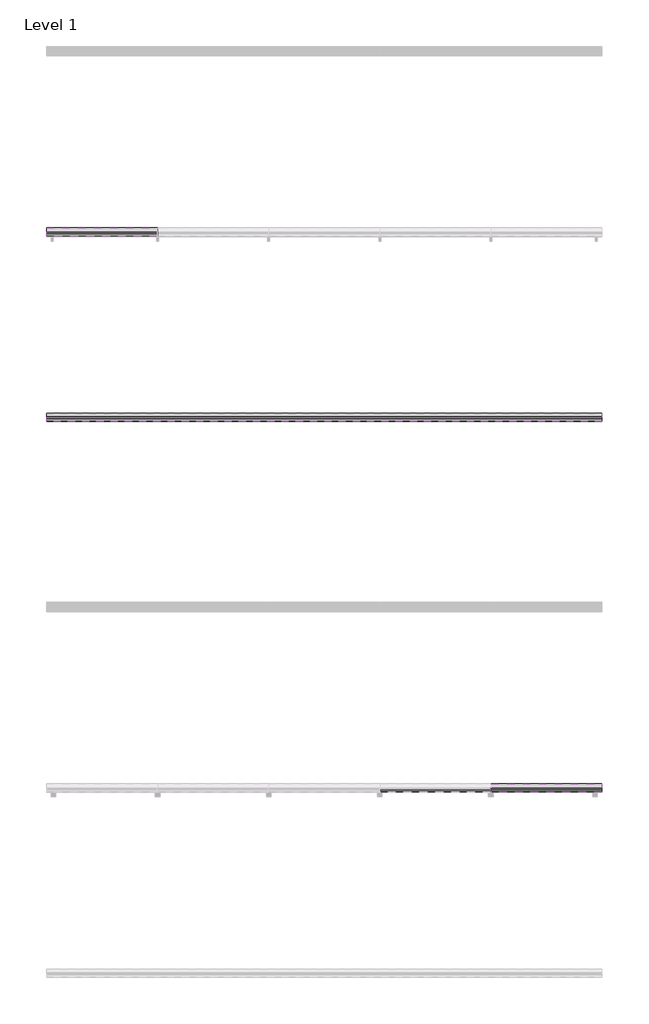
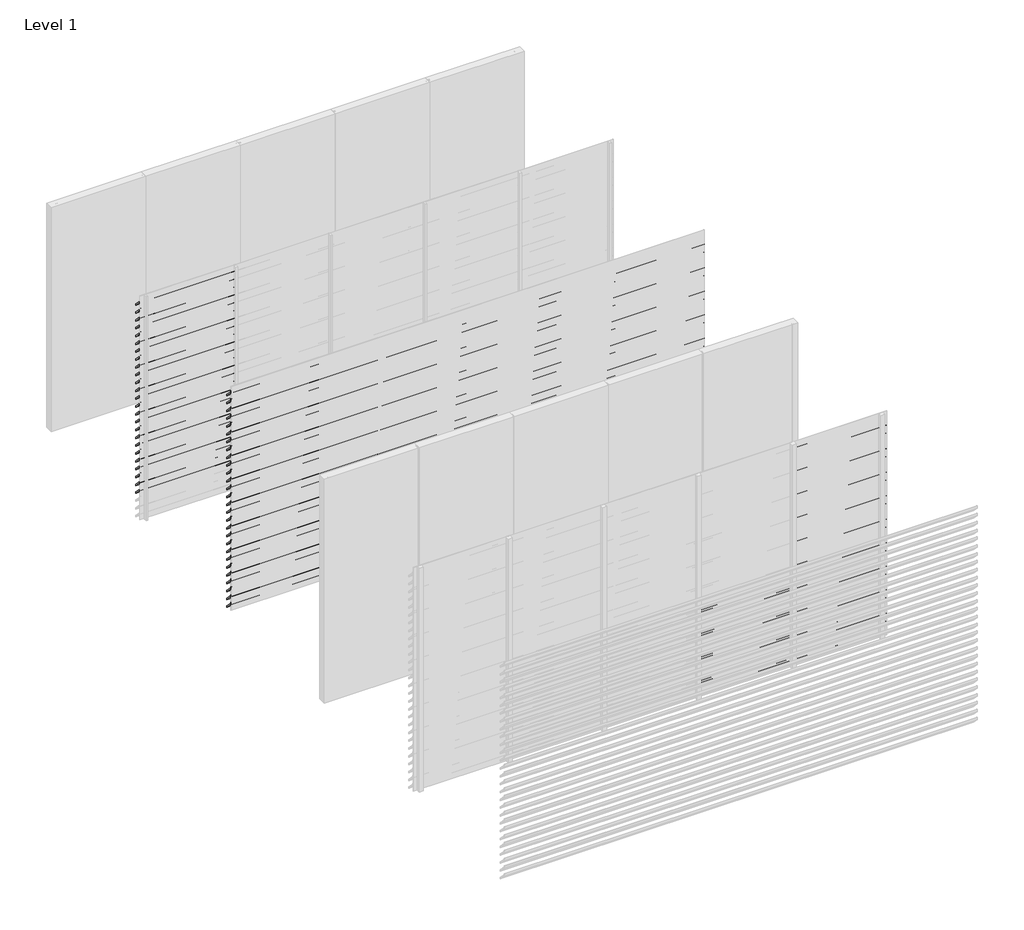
# One storey, part 5 of 8: 92 proxies.
"""IFC4 building model written with IfcOpenShell, lengths in millimetres."""

from ifc_helpers import new_model, si_unit, frame, origin, place, context, project, spatial, polyline, outline, extrude, element, save

model = new_model("IFC4")

# Units and contexts
model_context = context("Model", 3, world=origin())
ifc_project = project(units=[si_unit("LENGTHUNIT", "METRE", prefix="MILLI")], contexts=[model_context])

# Site, building, storey
site = spatial("IfcSite", under=ifc_project)
building = spatial("IfcBuilding", under=site)
storey = spatial("IfcBuildingStorey", under=building, Name="Level 1", Elevation=0.0)

# Proxies
placement = place(None, origin())
element("IfcBuildingElementProxy", 1, Name="Wall Sweeps", at=placement, inside=storey, context=model_context, shape_type="SweptSolid", body=[
    extrude(outline(polyline([(-5995.0, 2940.0), (-5995.0, 2927.0), (-5907.0, 2839.0), (-5907.0, 2818.0), (-5997.0, 2908.0), (-5997.0, 2940.0), (-5995.0, 2940.0)])), frame((0.0, 0.0, 0.0), z_axis=(1.0, 0.0, 0.0), x_axis=(0.0, 1.0, 0.0)), (0.0, 0.0, 1.0), 1200.0),
])
element("IfcBuildingElementProxy", 2, Name="Wall Sweeps", at=placement, inside=storey, context=model_context, shape_type="SweptSolid", body=[
    extrude(outline(polyline([(-5995.0, 2835.0), (-5995.0, 2822.0), (-5907.0, 2734.0), (-5907.0, 2713.0), (-5997.0, 2803.0), (-5997.0, 2835.0), (-5995.0, 2835.0)])), frame((0.0, 0.0, 0.0), z_axis=(1.0, 0.0, 0.0), x_axis=(0.0, 1.0, 0.0)), (0.0, 0.0, 1.0), 1200.0),
])
element("IfcBuildingElementProxy", 3, Name="Wall Sweeps", at=placement, inside=storey, context=model_context, shape_type="SweptSolid", body=[
    extrude(outline(polyline([(-5995.0, 2730.0), (-5995.0, 2717.0), (-5907.0, 2629.0), (-5907.0, 2608.0), (-5997.0, 2698.0), (-5997.0, 2730.0), (-5995.0, 2730.0)])), frame((0.0, 0.0, 0.0), z_axis=(1.0, 0.0, 0.0), x_axis=(0.0, 1.0, 0.0)), (0.0, 0.0, 1.0), 1200.0),
])
element("IfcBuildingElementProxy", 4, Name="Wall Sweeps", at=placement, inside=storey, context=model_context, shape_type="SweptSolid", body=[
    extrude(outline(polyline([(-5995.0, 2625.0), (-5995.0, 2612.0), (-5907.0, 2524.0), (-5907.0, 2503.0), (-5997.0, 2593.0), (-5997.0, 2625.0), (-5995.0, 2625.0)])), frame((0.0, 0.0, 0.0), z_axis=(1.0, 0.0, 0.0), x_axis=(0.0, 1.0, 0.0)), (0.0, 0.0, 1.0), 1200.0),
])
element("IfcBuildingElementProxy", 5, Name="Wall Sweeps", at=placement, inside=storey, context=model_context, shape_type="SweptSolid", body=[
    extrude(outline(polyline([(-5995.0, 2520.0), (-5995.0, 2507.0), (-5907.0, 2419.0), (-5907.0, 2398.0), (-5997.0, 2488.0), (-5997.0, 2520.0), (-5995.0, 2520.0)])), frame((0.0, 0.0, 0.0), z_axis=(1.0, 0.0, 0.0), x_axis=(0.0, 1.0, 0.0)), (0.0, 0.0, 1.0), 1200.0),
])
element("IfcBuildingElementProxy", 6, Name="Wall Sweeps", at=placement, inside=storey, context=model_context, shape_type="SweptSolid", body=[
    extrude(outline(polyline([(-5995.0, 2415.0), (-5995.0, 2402.0), (-5907.0, 2314.0), (-5907.0, 2293.0), (-5997.0, 2383.0), (-5997.0, 2415.0), (-5995.0, 2415.0)])), frame((0.0, 0.0, 0.0), z_axis=(1.0, 0.0, 0.0), x_axis=(0.0, 1.0, 0.0)), (0.0, 0.0, 1.0), 1200.0),
])
element("IfcBuildingElementProxy", 7, Name="Wall Sweeps", at=placement, inside=storey, context=model_context, shape_type="SweptSolid", body=[
    extrude(outline(polyline([(-5995.0, 2310.0), (-5995.0, 2297.0), (-5907.0, 2209.0), (-5907.0, 2188.0), (-5997.0, 2278.0), (-5997.0, 2310.0), (-5995.0, 2310.0)])), frame((0.0, 0.0, 0.0), z_axis=(1.0, 0.0, 0.0), x_axis=(0.0, 1.0, 0.0)), (0.0, 0.0, 1.0), 1200.0),
])
element("IfcBuildingElementProxy", 8, Name="Wall Sweeps", at=placement, inside=storey, context=model_context, shape_type="SweptSolid", body=[
    extrude(outline(polyline([(-5995.0, 2205.0), (-5995.0, 2192.0), (-5907.0, 2104.0), (-5907.0, 2083.0), (-5997.0, 2173.0), (-5997.0, 2205.0), (-5995.0, 2205.0)])), frame((0.0, 0.0, 0.0), z_axis=(1.0, 0.0, 0.0), x_axis=(0.0, 1.0, 0.0)), (0.0, 0.0, 1.0), 1200.0),
])
element("IfcBuildingElementProxy", 9, Name="Wall Sweeps", at=placement, inside=storey, context=model_context, shape_type="SweptSolid", body=[
    extrude(outline(polyline([(-5995.0, 2100.0), (-5995.0, 2087.0), (-5907.0, 1999.0), (-5907.0, 1978.0), (-5997.0, 2068.0), (-5997.0, 2100.0), (-5995.0, 2100.0)])), frame((0.0, 0.0, 0.0), z_axis=(1.0, 0.0, 0.0), x_axis=(0.0, 1.0, 0.0)), (0.0, 0.0, 1.0), 1200.0),
])
element("IfcBuildingElementProxy", 10, Name="Wall Sweeps", at=placement, inside=storey, context=model_context, shape_type="SweptSolid", body=[
    extrude(outline(polyline([(-5995.0, 1995.0), (-5995.0, 1982.0), (-5907.0, 1894.0), (-5907.0, 1873.0), (-5997.0, 1963.0), (-5997.0, 1995.0), (-5995.0, 1995.0)])), frame((0.0, 0.0, 0.0), z_axis=(1.0, 0.0, 0.0), x_axis=(0.0, 1.0, 0.0)), (0.0, 0.0, 1.0), 1200.0),
])
element("IfcBuildingElementProxy", 11, Name="Wall Sweeps", at=placement, inside=storey, context=model_context, shape_type="SweptSolid", body=[
    extrude(outline(polyline([(-5995.0, 1890.0), (-5995.0, 1877.0), (-5907.0, 1789.0), (-5907.0, 1768.0), (-5997.0, 1858.0), (-5997.0, 1890.0), (-5995.0, 1890.0)])), frame((0.0, 0.0, 0.0), z_axis=(1.0, 0.0, 0.0), x_axis=(0.0, 1.0, 0.0)), (0.0, 0.0, 1.0), 1200.0),
])
element("IfcBuildingElementProxy", 12, Name="Wall Sweeps", at=placement, inside=storey, context=model_context, shape_type="SweptSolid", body=[
    extrude(outline(polyline([(-5995.0, 1785.0), (-5995.0, 1772.0), (-5907.0, 1684.0), (-5907.0, 1663.0), (-5997.0, 1753.0), (-5997.0, 1785.0), (-5995.0, 1785.0)])), frame((0.0, 0.0, 0.0), z_axis=(1.0, 0.0, 0.0), x_axis=(0.0, 1.0, 0.0)), (0.0, 0.0, 1.0), 1200.0),
])
element("IfcBuildingElementProxy", 13, Name="Wall Sweeps", at=placement, inside=storey, context=model_context, shape_type="SweptSolid", body=[
    extrude(outline(polyline([(-5995.0, 1680.0), (-5995.0, 1667.0), (-5907.0, 1579.0), (-5907.0, 1558.0), (-5997.0, 1648.0), (-5997.0, 1680.0), (-5995.0, 1680.0)])), frame((0.0, 0.0, 0.0), z_axis=(1.0, 0.0, 0.0), x_axis=(0.0, 1.0, 0.0)), (0.0, 0.0, 1.0), 1200.0),
])
element("IfcBuildingElementProxy", 14, Name="Wall Sweeps", at=placement, inside=storey, context=model_context, shape_type="SweptSolid", body=[
    extrude(outline(polyline([(-5995.0, 1575.0), (-5995.0, 1562.0), (-5907.0, 1474.0), (-5907.0, 1453.0), (-5997.0, 1543.0), (-5997.0, 1575.0), (-5995.0, 1575.0)])), frame((0.0, 0.0, 0.0), z_axis=(1.0, 0.0, 0.0), x_axis=(0.0, 1.0, 0.0)), (0.0, 0.0, 1.0), 1200.0),
])
element("IfcBuildingElementProxy", 15, Name="Wall Sweeps", at=placement, inside=storey, context=model_context, shape_type="SweptSolid", body=[
    extrude(outline(polyline([(-5995.0, 1470.0), (-5995.0, 1457.0), (-5907.0, 1369.0), (-5907.0, 1348.0), (-5997.0, 1438.0), (-5997.0, 1470.0), (-5995.0, 1470.0)])), frame((0.0, 0.0, 0.0), z_axis=(1.0, 0.0, 0.0), x_axis=(0.0, 1.0, 0.0)), (0.0, 0.0, 1.0), 1200.0),
])
element("IfcBuildingElementProxy", 16, Name="Wall Sweeps", at=placement, inside=storey, context=model_context, shape_type="SweptSolid", body=[
    extrude(outline(polyline([(-5995.0, 1365.0), (-5995.0, 1352.0), (-5907.0, 1264.0), (-5907.0, 1243.0), (-5997.0, 1333.0), (-5997.0, 1365.0), (-5995.0, 1365.0)])), frame((0.0, 0.0, 0.0), z_axis=(1.0, 0.0, 0.0), x_axis=(0.0, 1.0, 0.0)), (0.0, 0.0, 1.0), 1200.0),
])
element("IfcBuildingElementProxy", 17, Name="Wall Sweeps", at=placement, inside=storey, context=model_context, shape_type="SweptSolid", body=[
    extrude(outline(polyline([(-5995.0, 1260.0), (-5995.0, 1247.0), (-5907.0, 1159.0), (-5907.0, 1138.0), (-5997.0, 1228.0), (-5997.0, 1260.0), (-5995.0, 1260.0)])), frame((0.0, 0.0, 0.0), z_axis=(1.0, 0.0, 0.0), x_axis=(0.0, 1.0, 0.0)), (0.0, 0.0, 1.0), 1200.0),
])
element("IfcBuildingElementProxy", 18, Name="Wall Sweeps", at=placement, inside=storey, context=model_context, shape_type="SweptSolid", body=[
    extrude(outline(polyline([(-5995.0, 1155.0), (-5995.0, 1142.0), (-5907.0, 1054.0), (-5907.0, 1033.0), (-5997.0, 1123.0), (-5997.0, 1155.0), (-5995.0, 1155.0)])), frame((0.0, 0.0, 0.0), z_axis=(1.0, 0.0, 0.0), x_axis=(0.0, 1.0, 0.0)), (0.0, 0.0, 1.0), 1200.0),
])
element("IfcBuildingElementProxy", 19, Name="Wall Sweeps", at=placement, inside=storey, context=model_context, shape_type="SweptSolid", body=[
    extrude(outline(polyline([(-5995.0, 1050.0), (-5995.0, 1037.0), (-5907.0, 949.0), (-5907.0, 928.0), (-5997.0, 1018.0), (-5997.0, 1050.0), (-5995.0, 1050.0)])), frame((0.0, 0.0, 0.0), z_axis=(1.0, 0.0, 0.0), x_axis=(0.0, 1.0, 0.0)), (0.0, 0.0, 1.0), 1200.0),
])
element("IfcBuildingElementProxy", 20, Name="Wall Sweeps", at=placement, inside=storey, context=model_context, shape_type="SweptSolid", body=[
    extrude(outline(polyline([(-5995.0, 945.0), (-5995.0, 932.0), (-5907.0, 844.0), (-5907.0, 823.0), (-5997.0, 913.0), (-5997.0, 945.0), (-5995.0, 945.0)])), frame((0.0, 0.0, 0.0), z_axis=(1.0, 0.0, 0.0), x_axis=(0.0, 1.0, 0.0)), (0.0, 0.0, 1.0), 1200.0),
])
element("IfcBuildingElementProxy", 21, Name="Wall Sweeps", at=placement, inside=storey, context=model_context, shape_type="SweptSolid", body=[
    extrude(outline(polyline([(-5995.0, 840.0), (-5995.0, 827.0), (-5907.0, 739.0), (-5907.0, 718.0), (-5997.0, 808.0), (-5997.0, 840.0), (-5995.0, 840.0)])), frame((0.0, 0.0, 0.0), z_axis=(1.0, 0.0, 0.0), x_axis=(0.0, 1.0, 0.0)), (0.0, 0.0, 1.0), 1200.0),
])
element("IfcBuildingElementProxy", 22, Name="Wall Sweeps", at=placement, inside=storey, context=model_context, shape_type="SweptSolid", body=[
    extrude(outline(polyline([(-5995.0, 735.0), (-5995.0, 722.0), (-5907.0, 634.0), (-5907.0, 613.0), (-5997.0, 703.0), (-5997.0, 735.0), (-5995.0, 735.0)])), frame((0.0, 0.0, 0.0), z_axis=(1.0, 0.0, 0.0), x_axis=(0.0, 1.0, 0.0)), (0.0, 0.0, 1.0), 1200.0),
])
element("IfcBuildingElementProxy", 23, Name="Wall Sweeps", at=placement, inside=storey, context=model_context, shape_type="SweptSolid", body=[
    extrude(outline(polyline([(-5995.0, 630.0), (-5995.0, 617.0), (-5907.0, 529.0), (-5907.0, 508.0), (-5997.0, 598.0), (-5997.0, 630.0), (-5995.0, 630.0)])), frame((0.0, 0.0, 0.0), z_axis=(1.0, 0.0, 0.0), x_axis=(0.0, 1.0, 0.0)), (0.0, 0.0, 1.0), 1200.0),
])
element("IfcBuildingElementProxy", 24, Name="Wall Sweeps", at=placement, inside=storey, context=model_context, shape_type="SweptSolid", body=[
    extrude(outline(polyline([(-5995.0, 525.0), (-5995.0, 512.0), (-5907.0, 424.0), (-5907.0, 403.0), (-5997.0, 493.0), (-5997.0, 525.0), (-5995.0, 525.0)])), frame((0.0, 0.0, 0.0), z_axis=(1.0, 0.0, 0.0), x_axis=(0.0, 1.0, 0.0)), (0.0, 0.0, 1.0), 1200.0),
])
element("IfcBuildingElementProxy", 25, Name="Wall Sweeps", at=placement, inside=storey, context=model_context, shape_type="SweptSolid", body=[
    extrude(outline(polyline([(-5995.0, 420.0), (-5995.0, 407.0), (-5907.0, 319.0), (-5907.0, 298.0), (-5997.0, 388.0), (-5997.0, 420.0), (-5995.0, 420.0)])), frame((0.0, 0.0, 0.0), z_axis=(1.0, 0.0, 0.0), x_axis=(0.0, 1.0, 0.0)), (0.0, 0.0, 1.0), 1200.0),
])
element("IfcBuildingElementProxy", 26, Name="Wall Sweeps", at=placement, inside=storey, context=model_context, shape_type="SweptSolid", body=[
    extrude(outline(polyline([(-7995.0, 2940.0), (-7995.0, 2927.0), (-7907.0, 2839.0), (-7907.0, 2818.0), (-7997.0, 2908.0), (-7997.0, 2940.0), (-7995.0, 2940.0)])), frame((0.0, 0.0, 0.0), z_axis=(1.0, 0.0, 0.0), x_axis=(0.0, 1.0, 0.0)), (0.0, 0.0, 1.0), 6000.0),
])
element("IfcBuildingElementProxy", 27, Name="Wall Sweeps", at=placement, inside=storey, context=model_context, shape_type="SweptSolid", body=[
    extrude(outline(polyline([(-7995.0, 2835.0), (-7995.0, 2822.0), (-7907.0, 2734.0), (-7907.0, 2713.0), (-7997.0, 2803.0), (-7997.0, 2835.0), (-7995.0, 2835.0)])), frame((0.0, 0.0, 0.0), z_axis=(1.0, 0.0, 0.0), x_axis=(0.0, 1.0, 0.0)), (0.0, 0.0, 1.0), 6000.0),
])
element("IfcBuildingElementProxy", 28, Name="Wall Sweeps", at=placement, inside=storey, context=model_context, shape_type="SweptSolid", body=[
    extrude(outline(polyline([(-7995.0, 2730.0), (-7995.0, 2717.0), (-7907.0, 2629.0), (-7907.0, 2608.0), (-7997.0, 2698.0), (-7997.0, 2730.0), (-7995.0, 2730.0)])), frame((0.0, 0.0, 0.0), z_axis=(1.0, 0.0, 0.0), x_axis=(0.0, 1.0, 0.0)), (0.0, 0.0, 1.0), 6000.0),
])
element("IfcBuildingElementProxy", 29, Name="Wall Sweeps", at=placement, inside=storey, context=model_context, shape_type="SweptSolid", body=[
    extrude(outline(polyline([(-7995.0, 2625.0), (-7995.0, 2612.0), (-7907.0, 2524.0), (-7907.0, 2503.0), (-7997.0, 2593.0), (-7997.0, 2625.0), (-7995.0, 2625.0)])), frame((0.0, 0.0, 0.0), z_axis=(1.0, 0.0, 0.0), x_axis=(0.0, 1.0, 0.0)), (0.0, 0.0, 1.0), 6000.0),
])
element("IfcBuildingElementProxy", 30, Name="Wall Sweeps", at=placement, inside=storey, context=model_context, shape_type="SweptSolid", body=[
    extrude(outline(polyline([(-7995.0, 2520.0), (-7995.0, 2507.0), (-7907.0, 2419.0), (-7907.0, 2398.0), (-7997.0, 2488.0), (-7997.0, 2520.0), (-7995.0, 2520.0)])), frame((0.0, 0.0, 0.0), z_axis=(1.0, 0.0, 0.0), x_axis=(0.0, 1.0, 0.0)), (0.0, 0.0, 1.0), 6000.0),
])
element("IfcBuildingElementProxy", 31, Name="Wall Sweeps", at=placement, inside=storey, context=model_context, shape_type="SweptSolid", body=[
    extrude(outline(polyline([(-7995.0, 2415.0), (-7995.0, 2402.0), (-7907.0, 2314.0), (-7907.0, 2293.0), (-7997.0, 2383.0), (-7997.0, 2415.0), (-7995.0, 2415.0)])), frame((0.0, 0.0, 0.0), z_axis=(1.0, 0.0, 0.0), x_axis=(0.0, 1.0, 0.0)), (0.0, 0.0, 1.0), 6000.0),
])
element("IfcBuildingElementProxy", 32, Name="Wall Sweeps", at=placement, inside=storey, context=model_context, shape_type="SweptSolid", body=[
    extrude(outline(polyline([(-7995.0, 2310.0), (-7995.0, 2297.0), (-7907.0, 2209.0), (-7907.0, 2188.0), (-7997.0, 2278.0), (-7997.0, 2310.0), (-7995.0, 2310.0)])), frame((0.0, 0.0, 0.0), z_axis=(1.0, 0.0, 0.0), x_axis=(0.0, 1.0, 0.0)), (0.0, 0.0, 1.0), 6000.0),
])
element("IfcBuildingElementProxy", 33, Name="Wall Sweeps", at=placement, inside=storey, context=model_context, shape_type="SweptSolid", body=[
    extrude(outline(polyline([(-7995.0, 2205.0), (-7995.0, 2192.0), (-7907.0, 2104.0), (-7907.0, 2083.0), (-7997.0, 2173.0), (-7997.0, 2205.0), (-7995.0, 2205.0)])), frame((0.0, 0.0, 0.0), z_axis=(1.0, 0.0, 0.0), x_axis=(0.0, 1.0, 0.0)), (0.0, 0.0, 1.0), 6000.0),
])
element("IfcBuildingElementProxy", 34, Name="Wall Sweeps", at=placement, inside=storey, context=model_context, shape_type="SweptSolid", body=[
    extrude(outline(polyline([(-7995.0, 2100.0), (-7995.0, 2087.0), (-7907.0, 1999.0), (-7907.0, 1978.0), (-7997.0, 2068.0), (-7997.0, 2100.0), (-7995.0, 2100.0)])), frame((0.0, 0.0, 0.0), z_axis=(1.0, 0.0, 0.0), x_axis=(0.0, 1.0, 0.0)), (0.0, 0.0, 1.0), 6000.0),
])
element("IfcBuildingElementProxy", 35, Name="Wall Sweeps", at=placement, inside=storey, context=model_context, shape_type="SweptSolid", body=[
    extrude(outline(polyline([(-7995.0, 1995.0), (-7995.0, 1982.0), (-7907.0, 1894.0), (-7907.0, 1873.0), (-7997.0, 1963.0), (-7997.0, 1995.0), (-7995.0, 1995.0)])), frame((0.0, 0.0, 0.0), z_axis=(1.0, 0.0, 0.0), x_axis=(0.0, 1.0, 0.0)), (0.0, 0.0, 1.0), 6000.0),
])
element("IfcBuildingElementProxy", 36, Name="Wall Sweeps", at=placement, inside=storey, context=model_context, shape_type="SweptSolid", body=[
    extrude(outline(polyline([(-7995.0, 1890.0), (-7995.0, 1877.0), (-7907.0, 1789.0), (-7907.0, 1768.0), (-7997.0, 1858.0), (-7997.0, 1890.0), (-7995.0, 1890.0)])), frame((0.0, 0.0, 0.0), z_axis=(1.0, 0.0, 0.0), x_axis=(0.0, 1.0, 0.0)), (0.0, 0.0, 1.0), 6000.0),
])
element("IfcBuildingElementProxy", 37, Name="Wall Sweeps", at=placement, inside=storey, context=model_context, shape_type="SweptSolid", body=[
    extrude(outline(polyline([(-7995.0, 1785.0), (-7995.0, 1772.0), (-7907.0, 1684.0), (-7907.0, 1663.0), (-7997.0, 1753.0), (-7997.0, 1785.0), (-7995.0, 1785.0)])), frame((0.0, 0.0, 0.0), z_axis=(1.0, 0.0, 0.0), x_axis=(0.0, 1.0, 0.0)), (0.0, 0.0, 1.0), 6000.0),
])
element("IfcBuildingElementProxy", 38, Name="Wall Sweeps", at=placement, inside=storey, context=model_context, shape_type="SweptSolid", body=[
    extrude(outline(polyline([(-7995.0, 1680.0), (-7995.0, 1667.0), (-7907.0, 1579.0), (-7907.0, 1558.0), (-7997.0, 1648.0), (-7997.0, 1680.0), (-7995.0, 1680.0)])), frame((0.0, 0.0, 0.0), z_axis=(1.0, 0.0, 0.0), x_axis=(0.0, 1.0, 0.0)), (0.0, 0.0, 1.0), 6000.0),
])
element("IfcBuildingElementProxy", 39, Name="Wall Sweeps", at=placement, inside=storey, context=model_context, shape_type="SweptSolid", body=[
    extrude(outline(polyline([(-7995.0, 1575.0), (-7995.0, 1562.0), (-7907.0, 1474.0), (-7907.0, 1453.0), (-7997.0, 1543.0), (-7997.0, 1575.0), (-7995.0, 1575.0)])), frame((0.0, 0.0, 0.0), z_axis=(1.0, 0.0, 0.0), x_axis=(0.0, 1.0, 0.0)), (0.0, 0.0, 1.0), 6000.0),
])
element("IfcBuildingElementProxy", 40, Name="Wall Sweeps", at=placement, inside=storey, context=model_context, shape_type="SweptSolid", body=[
    extrude(outline(polyline([(-7995.0, 1470.0), (-7995.0, 1457.0), (-7907.0, 1369.0), (-7907.0, 1348.0), (-7997.0, 1438.0), (-7997.0, 1470.0), (-7995.0, 1470.0)])), frame((0.0, 0.0, 0.0), z_axis=(1.0, 0.0, 0.0), x_axis=(0.0, 1.0, 0.0)), (0.0, 0.0, 1.0), 6000.0),
])
element("IfcBuildingElementProxy", 41, Name="Wall Sweeps", at=placement, inside=storey, context=model_context, shape_type="SweptSolid", body=[
    extrude(outline(polyline([(-7995.0, 1365.0), (-7995.0, 1352.0), (-7907.0, 1264.0), (-7907.0, 1243.0), (-7997.0, 1333.0), (-7997.0, 1365.0), (-7995.0, 1365.0)])), frame((0.0, 0.0, 0.0), z_axis=(1.0, 0.0, 0.0), x_axis=(0.0, 1.0, 0.0)), (0.0, 0.0, 1.0), 6000.0),
])
element("IfcBuildingElementProxy", 42, Name="Wall Sweeps", at=placement, inside=storey, context=model_context, shape_type="SweptSolid", body=[
    extrude(outline(polyline([(-7995.0, 1260.0), (-7995.0, 1247.0), (-7907.0, 1159.0), (-7907.0, 1138.0), (-7997.0, 1228.0), (-7997.0, 1260.0), (-7995.0, 1260.0)])), frame((0.0, 0.0, 0.0), z_axis=(1.0, 0.0, 0.0), x_axis=(0.0, 1.0, 0.0)), (0.0, 0.0, 1.0), 6000.0),
])
element("IfcBuildingElementProxy", 43, Name="Wall Sweeps", at=placement, inside=storey, context=model_context, shape_type="SweptSolid", body=[
    extrude(outline(polyline([(-7995.0, 1155.0), (-7995.0, 1142.0), (-7907.0, 1054.0), (-7907.0, 1033.0), (-7997.0, 1123.0), (-7997.0, 1155.0), (-7995.0, 1155.0)])), frame((0.0, 0.0, 0.0), z_axis=(1.0, 0.0, 0.0), x_axis=(0.0, 1.0, 0.0)), (0.0, 0.0, 1.0), 6000.0),
])
element("IfcBuildingElementProxy", 44, Name="Wall Sweeps", at=placement, inside=storey, context=model_context, shape_type="SweptSolid", body=[
    extrude(outline(polyline([(-7995.0, 1050.0), (-7995.0, 1037.0), (-7907.0, 949.0), (-7907.0, 928.0), (-7997.0, 1018.0), (-7997.0, 1050.0), (-7995.0, 1050.0)])), frame((0.0, 0.0, 0.0), z_axis=(1.0, 0.0, 0.0), x_axis=(0.0, 1.0, 0.0)), (0.0, 0.0, 1.0), 6000.0),
])
element("IfcBuildingElementProxy", 45, Name="Wall Sweeps", at=placement, inside=storey, context=model_context, shape_type="SweptSolid", body=[
    extrude(outline(polyline([(-7995.0, 945.0), (-7995.0, 932.0), (-7907.0, 844.0), (-7907.0, 823.0), (-7997.0, 913.0), (-7997.0, 945.0), (-7995.0, 945.0)])), frame((0.0, 0.0, 0.0), z_axis=(1.0, 0.0, 0.0), x_axis=(0.0, 1.0, 0.0)), (0.0, 0.0, 1.0), 6000.0),
])
element("IfcBuildingElementProxy", 46, Name="Wall Sweeps", at=placement, inside=storey, context=model_context, shape_type="SweptSolid", body=[
    extrude(outline(polyline([(-7995.0, 840.0), (-7995.0, 827.0), (-7907.0, 739.0), (-7907.0, 718.0), (-7997.0, 808.0), (-7997.0, 840.0), (-7995.0, 840.0)])), frame((0.0, 0.0, 0.0), z_axis=(1.0, 0.0, 0.0), x_axis=(0.0, 1.0, 0.0)), (0.0, 0.0, 1.0), 6000.0),
])
element("IfcBuildingElementProxy", 47, Name="Wall Sweeps", at=placement, inside=storey, context=model_context, shape_type="SweptSolid", body=[
    extrude(outline(polyline([(-7995.0, 735.0), (-7995.0, 722.0), (-7907.0, 634.0), (-7907.0, 613.0), (-7997.0, 703.0), (-7997.0, 735.0), (-7995.0, 735.0)])), frame((0.0, 0.0, 0.0), z_axis=(1.0, 0.0, 0.0), x_axis=(0.0, 1.0, 0.0)), (0.0, 0.0, 1.0), 6000.0),
])
element("IfcBuildingElementProxy", 48, Name="Wall Sweeps", at=placement, inside=storey, context=model_context, shape_type="SweptSolid", body=[
    extrude(outline(polyline([(-7995.0, 630.0), (-7995.0, 617.0), (-7907.0, 529.0), (-7907.0, 508.0), (-7997.0, 598.0), (-7997.0, 630.0), (-7995.0, 630.0)])), frame((0.0, 0.0, 0.0), z_axis=(1.0, 0.0, 0.0), x_axis=(0.0, 1.0, 0.0)), (0.0, 0.0, 1.0), 6000.0),
])
element("IfcBuildingElementProxy", 49, Name="Wall Sweeps", at=placement, inside=storey, context=model_context, shape_type="SweptSolid", body=[
    extrude(outline(polyline([(-7995.0, 525.0), (-7995.0, 512.0), (-7907.0, 424.0), (-7907.0, 403.0), (-7997.0, 493.0), (-7997.0, 525.0), (-7995.0, 525.0)])), frame((0.0, 0.0, 0.0), z_axis=(1.0, 0.0, 0.0), x_axis=(0.0, 1.0, 0.0)), (0.0, 0.0, 1.0), 6000.0),
])
element("IfcBuildingElementProxy", 50, Name="Wall Sweeps", at=placement, inside=storey, context=model_context, shape_type="SweptSolid", body=[
    extrude(outline(polyline([(-7995.0, 420.0), (-7995.0, 407.0), (-7907.0, 319.0), (-7907.0, 298.0), (-7997.0, 388.0), (-7997.0, 420.0), (-7995.0, 420.0)])), frame((0.0, 0.0, 0.0), z_axis=(1.0, 0.0, 0.0), x_axis=(0.0, 1.0, 0.0)), (0.0, 0.0, 1.0), 6000.0),
])
element("IfcBuildingElementProxy", 51, Name="Wall Sweeps", at=placement, inside=storey, context=model_context, shape_type="SweptSolid", body=[
    extrude(outline(polyline([(-7995.0, 315.0), (-7995.0, 302.0), (-7907.0, 214.0), (-7907.0, 193.0), (-7997.0, 283.0), (-7997.0, 315.0), (-7995.0, 315.0)])), frame((0.0, 0.0, 0.0), z_axis=(1.0, 0.0, 0.0), x_axis=(0.0, 1.0, 0.0)), (0.0, 0.0, 1.0), 6000.0),
])
element("IfcBuildingElementProxy", 52, Name="Wall Sweeps", at=placement, inside=storey, context=model_context, shape_type="SweptSolid", body=[
    extrude(outline(polyline([(-7995.0, 210.0), (-7995.0, 197.0), (-7907.0, 109.0), (-7907.0, 88.0), (-7997.0, 178.0), (-7997.0, 210.0), (-7995.0, 210.0)])), frame((0.0, 0.0, 0.0), z_axis=(1.0, 0.0, 0.0), x_axis=(0.0, 1.0, 0.0)), (0.0, 0.0, 1.0), 6000.0),
])
element("IfcBuildingElementProxy", 53, Name="Wall Sweeps", at=placement, inside=storey, context=model_context, shape_type="SweptSolid", body=[
    extrude(outline(polyline([(-7995.0, 105.0), (-7995.0, 92.0), (-7907.0, 4.0), (-7907.0, -17.0), (-7997.0, 73.0), (-7997.0, 105.0), (-7995.0, 105.0)])), frame((0.0, 0.0, 0.0), z_axis=(1.0, 0.0, 0.0), x_axis=(0.0, 1.0, 0.0)), (0.0, 0.0, 1.0), 6000.0),
])
element("IfcBuildingElementProxy", 54, Name="Wall Sweeps", at=placement, inside=storey, context=model_context, shape_type="SweptSolid", body=[
    extrude(outline(polyline([(-11995.0, 1155.0), (-11995.0, 1142.0), (-11907.0, 1054.0), (-11907.0, 1033.0), (-11997.0, 1123.0), (-11997.0, 1155.0), (-11995.0, 1155.0)])), frame((3600.0, 0.0, 0.0), z_axis=(1.0, 0.0, 0.0), x_axis=(0.0, 1.0, 0.0)), (0.0, 0.0, 1.0), 1200.0),
])
element("IfcBuildingElementProxy", 55, Name="Wall Sweeps", at=placement, inside=storey, context=model_context, shape_type="SweptSolid", body=[
    extrude(outline(polyline([(-11995.0, 1050.0), (-11995.0, 1037.0), (-11907.0, 949.0), (-11907.0, 928.0), (-11997.0, 1018.0), (-11997.0, 1050.0), (-11995.0, 1050.0)])), frame((3600.0, 0.0, 0.0), z_axis=(1.0, 0.0, 0.0), x_axis=(0.0, 1.0, 0.0)), (0.0, 0.0, 1.0), 1200.0),
])
element("IfcBuildingElementProxy", 56, Name="Wall Sweeps", at=placement, inside=storey, context=model_context, shape_type="SweptSolid", body=[
    extrude(outline(polyline([(-11995.0, 945.0), (-11995.0, 932.0), (-11907.0, 844.0), (-11907.0, 823.0), (-11997.0, 913.0), (-11997.0, 945.0), (-11995.0, 945.0)])), frame((3600.0, 0.0, 0.0), z_axis=(1.0, 0.0, 0.0), x_axis=(0.0, 1.0, 0.0)), (0.0, 0.0, 1.0), 1200.0),
])
element("IfcBuildingElementProxy", 57, Name="Wall Sweeps", at=placement, inside=storey, context=model_context, shape_type="SweptSolid", body=[
    extrude(outline(polyline([(-11995.0, 840.0), (-11995.0, 827.0), (-11907.0, 739.0), (-11907.0, 718.0), (-11997.0, 808.0), (-11997.0, 840.0), (-11995.0, 840.0)])), frame((3600.0, 0.0, 0.0), z_axis=(1.0, 0.0, 0.0), x_axis=(0.0, 1.0, 0.0)), (0.0, 0.0, 1.0), 1200.0),
])
element("IfcBuildingElementProxy", 58, Name="Wall Sweeps", at=placement, inside=storey, context=model_context, shape_type="SweptSolid", body=[
    extrude(outline(polyline([(-11995.0, 735.0), (-11995.0, 722.0), (-11907.0, 634.0), (-11907.0, 613.0), (-11997.0, 703.0), (-11997.0, 735.0), (-11995.0, 735.0)])), frame((3600.0, 0.0, 0.0), z_axis=(1.0, 0.0, 0.0), x_axis=(0.0, 1.0, 0.0)), (0.0, 0.0, 1.0), 1200.0),
])
element("IfcBuildingElementProxy", 59, Name="Wall Sweeps", at=placement, inside=storey, context=model_context, shape_type="SweptSolid", body=[
    extrude(outline(polyline([(-11995.0, 630.0), (-11995.0, 617.0), (-11907.0, 529.0), (-11907.0, 508.0), (-11997.0, 598.0), (-11997.0, 630.0), (-11995.0, 630.0)])), frame((3600.0, 0.0, 0.0), z_axis=(1.0, 0.0, 0.0), x_axis=(0.0, 1.0, 0.0)), (0.0, 0.0, 1.0), 1200.0),
])
element("IfcBuildingElementProxy", 60, Name="Wall Sweeps", at=placement, inside=storey, context=model_context, shape_type="SweptSolid", body=[
    extrude(outline(polyline([(-11995.0, 525.0), (-11995.0, 512.0), (-11907.0, 424.0), (-11907.0, 403.0), (-11997.0, 493.0), (-11997.0, 525.0), (-11995.0, 525.0)])), frame((3600.0, 0.0, 0.0), z_axis=(1.0, 0.0, 0.0), x_axis=(0.0, 1.0, 0.0)), (0.0, 0.0, 1.0), 1200.0),
])
element("IfcBuildingElementProxy", 61, Name="Wall Sweeps", at=placement, inside=storey, context=model_context, shape_type="SweptSolid", body=[
    extrude(outline(polyline([(-11995.0, 420.0), (-11995.0, 407.0), (-11907.0, 319.0), (-11907.0, 298.0), (-11997.0, 388.0), (-11997.0, 420.0), (-11995.0, 420.0)])), frame((3600.0, 0.0, 0.0), z_axis=(1.0, 0.0, 0.0), x_axis=(0.0, 1.0, 0.0)), (0.0, 0.0, 1.0), 1200.0),
])
element("IfcBuildingElementProxy", 62, Name="Wall Sweeps", at=placement, inside=storey, context=model_context, shape_type="SweptSolid", body=[
    extrude(outline(polyline([(-11995.0, 315.0), (-11995.0, 302.0), (-11907.0, 214.0), (-11907.0, 193.0), (-11997.0, 283.0), (-11997.0, 315.0), (-11995.0, 315.0)])), frame((3600.0, 0.0, 0.0), z_axis=(1.0, 0.0, 0.0), x_axis=(0.0, 1.0, 0.0)), (0.0, 0.0, 1.0), 1200.0),
])
element("IfcBuildingElementProxy", 63, Name="Wall Sweeps", at=placement, inside=storey, context=model_context, shape_type="SweptSolid", body=[
    extrude(outline(polyline([(-11995.0, 210.0), (-11995.0, 197.0), (-11907.0, 109.0), (-11907.0, 88.0), (-11997.0, 178.0), (-11997.0, 210.0), (-11995.0, 210.0)])), frame((3600.0, 0.0, 0.0), z_axis=(1.0, 0.0, 0.0), x_axis=(0.0, 1.0, 0.0)), (0.0, 0.0, 1.0), 1200.0),
])
element("IfcBuildingElementProxy", 64, Name="Wall Sweeps", at=placement, inside=storey, context=model_context, shape_type="SweptSolid", body=[
    extrude(outline(polyline([(-11995.0, 105.0), (-11995.0, 92.0), (-11907.0, 4.0), (-11907.0, -17.0), (-11997.0, 73.0), (-11997.0, 105.0), (-11995.0, 105.0)])), frame((3600.0, 0.0, 0.0), z_axis=(1.0, 0.0, 0.0), x_axis=(0.0, 1.0, 0.0)), (0.0, 0.0, 1.0), 1200.0),
])
element("IfcBuildingElementProxy", 65, Name="Wall Sweeps", at=placement, inside=storey, context=model_context, shape_type="SweptSolid", body=[
    extrude(outline(polyline([(-11995.0, 2940.0), (-11995.0, 2927.0), (-11907.0, 2839.0), (-11907.0, 2818.0), (-11997.0, 2908.0), (-11997.0, 2940.0), (-11995.0, 2940.0)])), frame((4800.0, 0.0, 0.0), z_axis=(1.0, 0.0, 0.0), x_axis=(0.0, 1.0, 0.0)), (0.0, 0.0, 1.0), 1200.0),
])
element("IfcBuildingElementProxy", 66, Name="Wall Sweeps", at=placement, inside=storey, context=model_context, shape_type="SweptSolid", body=[
    extrude(outline(polyline([(-11995.0, 2835.0), (-11995.0, 2822.0), (-11907.0, 2734.0), (-11907.0, 2713.0), (-11997.0, 2803.0), (-11997.0, 2835.0), (-11995.0, 2835.0)])), frame((4800.0, 0.0, 0.0), z_axis=(1.0, 0.0, 0.0), x_axis=(0.0, 1.0, 0.0)), (0.0, 0.0, 1.0), 1200.0),
])
element("IfcBuildingElementProxy", 67, Name="Wall Sweeps", at=placement, inside=storey, context=model_context, shape_type="SweptSolid", body=[
    extrude(outline(polyline([(-11995.0, 2730.0), (-11995.0, 2717.0), (-11907.0, 2629.0), (-11907.0, 2608.0), (-11997.0, 2698.0), (-11997.0, 2730.0), (-11995.0, 2730.0)])), frame((4800.0, 0.0, 0.0), z_axis=(1.0, 0.0, 0.0), x_axis=(0.0, 1.0, 0.0)), (0.0, 0.0, 1.0), 1200.0),
])
element("IfcBuildingElementProxy", 68, Name="Wall Sweeps", at=placement, inside=storey, context=model_context, shape_type="SweptSolid", body=[
    extrude(outline(polyline([(-11995.0, 2625.0), (-11995.0, 2612.0), (-11907.0, 2524.0), (-11907.0, 2503.0), (-11997.0, 2593.0), (-11997.0, 2625.0), (-11995.0, 2625.0)])), frame((4800.0, 0.0, 0.0), z_axis=(1.0, 0.0, 0.0), x_axis=(0.0, 1.0, 0.0)), (0.0, 0.0, 1.0), 1200.0),
])
element("IfcBuildingElementProxy", 69, Name="Wall Sweeps", at=placement, inside=storey, context=model_context, shape_type="SweptSolid", body=[
    extrude(outline(polyline([(-11995.0, 2520.0), (-11995.0, 2507.0), (-11907.0, 2419.0), (-11907.0, 2398.0), (-11997.0, 2488.0), (-11997.0, 2520.0), (-11995.0, 2520.0)])), frame((4800.0, 0.0, 0.0), z_axis=(1.0, 0.0, 0.0), x_axis=(0.0, 1.0, 0.0)), (0.0, 0.0, 1.0), 1200.0),
])
element("IfcBuildingElementProxy", 70, Name="Wall Sweeps", at=placement, inside=storey, context=model_context, shape_type="SweptSolid", body=[
    extrude(outline(polyline([(-11995.0, 2415.0), (-11995.0, 2402.0), (-11907.0, 2314.0), (-11907.0, 2293.0), (-11997.0, 2383.0), (-11997.0, 2415.0), (-11995.0, 2415.0)])), frame((4800.0, 0.0, 0.0), z_axis=(1.0, 0.0, 0.0), x_axis=(0.0, 1.0, 0.0)), (0.0, 0.0, 1.0), 1200.0),
])
element("IfcBuildingElementProxy", 71, Name="Wall Sweeps", at=placement, inside=storey, context=model_context, shape_type="SweptSolid", body=[
    extrude(outline(polyline([(-11995.0, 2310.0), (-11995.0, 2297.0), (-11907.0, 2209.0), (-11907.0, 2188.0), (-11997.0, 2278.0), (-11997.0, 2310.0), (-11995.0, 2310.0)])), frame((4800.0, 0.0, 0.0), z_axis=(1.0, 0.0, 0.0), x_axis=(0.0, 1.0, 0.0)), (0.0, 0.0, 1.0), 1200.0),
])
element("IfcBuildingElementProxy", 72, Name="Wall Sweeps", at=placement, inside=storey, context=model_context, shape_type="SweptSolid", body=[
    extrude(outline(polyline([(-11995.0, 2205.0), (-11995.0, 2192.0), (-11907.0, 2104.0), (-11907.0, 2083.0), (-11997.0, 2173.0), (-11997.0, 2205.0), (-11995.0, 2205.0)])), frame((4800.0, 0.0, 0.0), z_axis=(1.0, 0.0, 0.0), x_axis=(0.0, 1.0, 0.0)), (0.0, 0.0, 1.0), 1200.0),
])
element("IfcBuildingElementProxy", 73, Name="Wall Sweeps", at=placement, inside=storey, context=model_context, shape_type="SweptSolid", body=[
    extrude(outline(polyline([(-11995.0, 2100.0), (-11995.0, 2087.0), (-11907.0, 1999.0), (-11907.0, 1978.0), (-11997.0, 2068.0), (-11997.0, 2100.0), (-11995.0, 2100.0)])), frame((4800.0, 0.0, 0.0), z_axis=(1.0, 0.0, 0.0), x_axis=(0.0, 1.0, 0.0)), (0.0, 0.0, 1.0), 1200.0),
])
element("IfcBuildingElementProxy", 74, Name="Wall Sweeps", at=placement, inside=storey, context=model_context, shape_type="SweptSolid", body=[
    extrude(outline(polyline([(-11995.0, 1995.0), (-11995.0, 1982.0), (-11907.0, 1894.0), (-11907.0, 1873.0), (-11997.0, 1963.0), (-11997.0, 1995.0), (-11995.0, 1995.0)])), frame((4800.0, 0.0, 0.0), z_axis=(1.0, 0.0, 0.0), x_axis=(0.0, 1.0, 0.0)), (0.0, 0.0, 1.0), 1200.0),
])
element("IfcBuildingElementProxy", 75, Name="Wall Sweeps", at=placement, inside=storey, context=model_context, shape_type="SweptSolid", body=[
    extrude(outline(polyline([(-11995.0, 1890.0), (-11995.0, 1877.0), (-11907.0, 1789.0), (-11907.0, 1768.0), (-11997.0, 1858.0), (-11997.0, 1890.0), (-11995.0, 1890.0)])), frame((4800.0, 0.0, 0.0), z_axis=(1.0, 0.0, 0.0), x_axis=(0.0, 1.0, 0.0)), (0.0, 0.0, 1.0), 1200.0),
])
element("IfcBuildingElementProxy", 76, Name="Wall Sweeps", at=placement, inside=storey, context=model_context, shape_type="SweptSolid", body=[
    extrude(outline(polyline([(-11995.0, 1785.0), (-11995.0, 1772.0), (-11907.0, 1684.0), (-11907.0, 1663.0), (-11997.0, 1753.0), (-11997.0, 1785.0), (-11995.0, 1785.0)])), frame((4800.0, 0.0, 0.0), z_axis=(1.0, 0.0, 0.0), x_axis=(0.0, 1.0, 0.0)), (0.0, 0.0, 1.0), 1200.0),
])
element("IfcBuildingElementProxy", 77, Name="Wall Sweeps", at=placement, inside=storey, context=model_context, shape_type="SweptSolid", body=[
    extrude(outline(polyline([(-11995.0, 1680.0), (-11995.0, 1667.0), (-11907.0, 1579.0), (-11907.0, 1558.0), (-11997.0, 1648.0), (-11997.0, 1680.0), (-11995.0, 1680.0)])), frame((4800.0, 0.0, 0.0), z_axis=(1.0, 0.0, 0.0), x_axis=(0.0, 1.0, 0.0)), (0.0, 0.0, 1.0), 1200.0),
])
element("IfcBuildingElementProxy", 78, Name="Wall Sweeps", at=placement, inside=storey, context=model_context, shape_type="SweptSolid", body=[
    extrude(outline(polyline([(-11995.0, 1575.0), (-11995.0, 1562.0), (-11907.0, 1474.0), (-11907.0, 1453.0), (-11997.0, 1543.0), (-11997.0, 1575.0), (-11995.0, 1575.0)])), frame((4800.0, 0.0, 0.0), z_axis=(1.0, 0.0, 0.0), x_axis=(0.0, 1.0, 0.0)), (0.0, 0.0, 1.0), 1200.0),
])
element("IfcBuildingElementProxy", 79, Name="Wall Sweeps", at=placement, inside=storey, context=model_context, shape_type="SweptSolid", body=[
    extrude(outline(polyline([(-11995.0, 1470.0), (-11995.0, 1457.0), (-11907.0, 1369.0), (-11907.0, 1348.0), (-11997.0, 1438.0), (-11997.0, 1470.0), (-11995.0, 1470.0)])), frame((4800.0, 0.0, 0.0), z_axis=(1.0, 0.0, 0.0), x_axis=(0.0, 1.0, 0.0)), (0.0, 0.0, 1.0), 1200.0),
])
element("IfcBuildingElementProxy", 80, Name="Wall Sweeps", at=placement, inside=storey, context=model_context, shape_type="SweptSolid", body=[
    extrude(outline(polyline([(-11995.0, 1365.0), (-11995.0, 1352.0), (-11907.0, 1264.0), (-11907.0, 1243.0), (-11997.0, 1333.0), (-11997.0, 1365.0), (-11995.0, 1365.0)])), frame((4800.0, 0.0, 0.0), z_axis=(1.0, 0.0, 0.0), x_axis=(0.0, 1.0, 0.0)), (0.0, 0.0, 1.0), 1200.0),
])
element("IfcBuildingElementProxy", 81, Name="Wall Sweeps", at=placement, inside=storey, context=model_context, shape_type="SweptSolid", body=[
    extrude(outline(polyline([(-11995.0, 1260.0), (-11995.0, 1247.0), (-11907.0, 1159.0), (-11907.0, 1138.0), (-11997.0, 1228.0), (-11997.0, 1260.0), (-11995.0, 1260.0)])), frame((4800.0, 0.0, 0.0), z_axis=(1.0, 0.0, 0.0), x_axis=(0.0, 1.0, 0.0)), (0.0, 0.0, 1.0), 1200.0),
])
element("IfcBuildingElementProxy", 82, Name="Wall Sweeps", at=placement, inside=storey, context=model_context, shape_type="SweptSolid", body=[
    extrude(outline(polyline([(-11995.0, 1155.0), (-11995.0, 1142.0), (-11907.0, 1054.0), (-11907.0, 1033.0), (-11997.0, 1123.0), (-11997.0, 1155.0), (-11995.0, 1155.0)])), frame((4800.0, 0.0, 0.0), z_axis=(1.0, 0.0, 0.0), x_axis=(0.0, 1.0, 0.0)), (0.0, 0.0, 1.0), 1200.0),
])
element("IfcBuildingElementProxy", 83, Name="Wall Sweeps", at=placement, inside=storey, context=model_context, shape_type="SweptSolid", body=[
    extrude(outline(polyline([(-11995.0, 1050.0), (-11995.0, 1037.0), (-11907.0, 949.0), (-11907.0, 928.0), (-11997.0, 1018.0), (-11997.0, 1050.0), (-11995.0, 1050.0)])), frame((4800.0, 0.0, 0.0), z_axis=(1.0, 0.0, 0.0), x_axis=(0.0, 1.0, 0.0)), (0.0, 0.0, 1.0), 1200.0),
])
element("IfcBuildingElementProxy", 84, Name="Wall Sweeps", at=placement, inside=storey, context=model_context, shape_type="SweptSolid", body=[
    extrude(outline(polyline([(-11995.0, 945.0), (-11995.0, 932.0), (-11907.0, 844.0), (-11907.0, 823.0), (-11997.0, 913.0), (-11997.0, 945.0), (-11995.0, 945.0)])), frame((4800.0, 0.0, 0.0), z_axis=(1.0, 0.0, 0.0), x_axis=(0.0, 1.0, 0.0)), (0.0, 0.0, 1.0), 1200.0),
])
element("IfcBuildingElementProxy", 85, Name="Wall Sweeps", at=placement, inside=storey, context=model_context, shape_type="SweptSolid", body=[
    extrude(outline(polyline([(-11995.0, 840.0), (-11995.0, 827.0), (-11907.0, 739.0), (-11907.0, 718.0), (-11997.0, 808.0), (-11997.0, 840.0), (-11995.0, 840.0)])), frame((4800.0, 0.0, 0.0), z_axis=(1.0, 0.0, 0.0), x_axis=(0.0, 1.0, 0.0)), (0.0, 0.0, 1.0), 1200.0),
])
element("IfcBuildingElementProxy", 86, Name="Wall Sweeps", at=placement, inside=storey, context=model_context, shape_type="SweptSolid", body=[
    extrude(outline(polyline([(-11995.0, 735.0), (-11995.0, 722.0), (-11907.0, 634.0), (-11907.0, 613.0), (-11997.0, 703.0), (-11997.0, 735.0), (-11995.0, 735.0)])), frame((4800.0, 0.0, 0.0), z_axis=(1.0, 0.0, 0.0), x_axis=(0.0, 1.0, 0.0)), (0.0, 0.0, 1.0), 1200.0),
])
element("IfcBuildingElementProxy", 87, Name="Wall Sweeps", at=placement, inside=storey, context=model_context, shape_type="SweptSolid", body=[
    extrude(outline(polyline([(-11995.0, 630.0), (-11995.0, 617.0), (-11907.0, 529.0), (-11907.0, 508.0), (-11997.0, 598.0), (-11997.0, 630.0), (-11995.0, 630.0)])), frame((4800.0, 0.0, 0.0), z_axis=(1.0, 0.0, 0.0), x_axis=(0.0, 1.0, 0.0)), (0.0, 0.0, 1.0), 1200.0),
])
element("IfcBuildingElementProxy", 88, Name="Wall Sweeps", at=placement, inside=storey, context=model_context, shape_type="SweptSolid", body=[
    extrude(outline(polyline([(-11995.0, 525.0), (-11995.0, 512.0), (-11907.0, 424.0), (-11907.0, 403.0), (-11997.0, 493.0), (-11997.0, 525.0), (-11995.0, 525.0)])), frame((4800.0, 0.0, 0.0), z_axis=(1.0, 0.0, 0.0), x_axis=(0.0, 1.0, 0.0)), (0.0, 0.0, 1.0), 1200.0),
])
element("IfcBuildingElementProxy", 89, Name="Wall Sweeps", at=placement, inside=storey, context=model_context, shape_type="SweptSolid", body=[
    extrude(outline(polyline([(-11995.0, 420.0), (-11995.0, 407.0), (-11907.0, 319.0), (-11907.0, 298.0), (-11997.0, 388.0), (-11997.0, 420.0), (-11995.0, 420.0)])), frame((4800.0, 0.0, 0.0), z_axis=(1.0, 0.0, 0.0), x_axis=(0.0, 1.0, 0.0)), (0.0, 0.0, 1.0), 1200.0),
])
element("IfcBuildingElementProxy", 90, Name="Wall Sweeps", at=placement, inside=storey, context=model_context, shape_type="SweptSolid", body=[
    extrude(outline(polyline([(-11995.0, 315.0), (-11995.0, 302.0), (-11907.0, 214.0), (-11907.0, 193.0), (-11997.0, 283.0), (-11997.0, 315.0), (-11995.0, 315.0)])), frame((4800.0, 0.0, 0.0), z_axis=(1.0, 0.0, 0.0), x_axis=(0.0, 1.0, 0.0)), (0.0, 0.0, 1.0), 1200.0),
])
element("IfcBuildingElementProxy", 91, Name="Wall Sweeps", at=placement, inside=storey, context=model_context, shape_type="SweptSolid", body=[
    extrude(outline(polyline([(-11995.0, 210.0), (-11995.0, 197.0), (-11907.0, 109.0), (-11907.0, 88.0), (-11997.0, 178.0), (-11997.0, 210.0), (-11995.0, 210.0)])), frame((4800.0, 0.0, 0.0), z_axis=(1.0, 0.0, 0.0), x_axis=(0.0, 1.0, 0.0)), (0.0, 0.0, 1.0), 1200.0),
])
element("IfcBuildingElementProxy", 92, Name="Wall Sweeps", at=placement, inside=storey, context=model_context, shape_type="SweptSolid", body=[
    extrude(outline(polyline([(-11995.0, 105.0), (-11995.0, 92.0), (-11907.0, 4.0), (-11907.0, -17.0), (-11997.0, 73.0), (-11997.0, 105.0), (-11995.0, 105.0)])), frame((4800.0, 0.0, 0.0), z_axis=(1.0, 0.0, 0.0), x_axis=(0.0, 1.0, 0.0)), (0.0, 0.0, 1.0), 1200.0),
])

save(model, "model.ifc")
